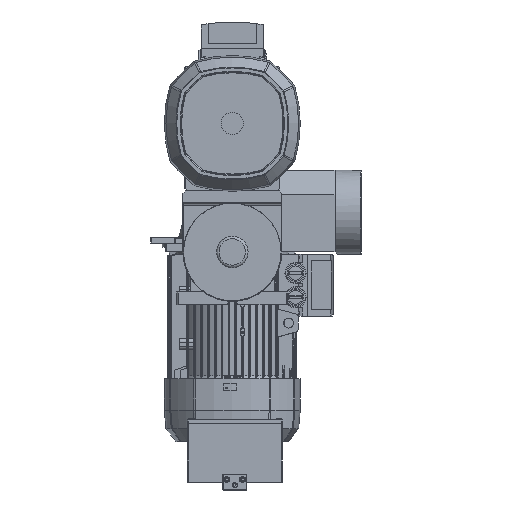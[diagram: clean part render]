
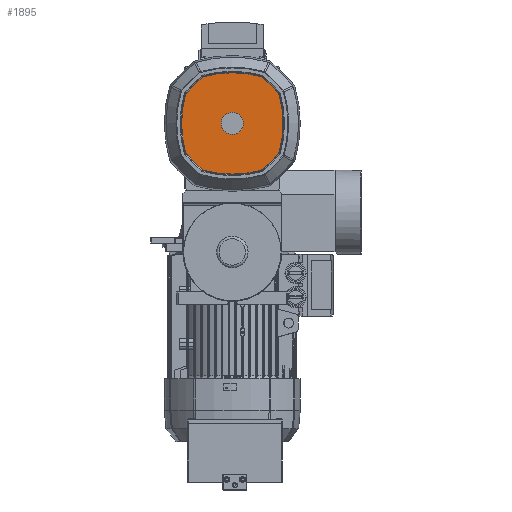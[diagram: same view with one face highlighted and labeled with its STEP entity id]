
A CAD part, front view. The second image highlights one B-rep face of the part: STEP entity #1895.
In plain terms, the highlighted planar face has unit normal (0, -1, 0) as drawn and (0, 0, -1) by its records, which use the part's own axes.
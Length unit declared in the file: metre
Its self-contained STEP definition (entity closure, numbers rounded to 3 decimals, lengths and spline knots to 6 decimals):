
#1895 = ADVANCED_FACE( '', ( #3817, #3818 ), #3819, .T. );
#3817 = FACE_BOUND( '', #8169, .T. );
#3818 = FACE_OUTER_BOUND( '', #8170, .T. );
#3819 = PLANE( '', #8171 );
#8169 = EDGE_LOOP( '', ( #14601 ) );
#8170 = EDGE_LOOP( '', ( #14602, #14603, #14604, #14605, #14606, #14607, #14608, #14609, #14610, #14611, #14612, #14613, #14614, #14615, #14616, #14617 ) );
#8171 = AXIS2_PLACEMENT_3D( '', #14618, #14619, #14620 );
#14601 = ORIENTED_EDGE( '', *, *, #28106, .F. );
#14602 = ORIENTED_EDGE( '', *, *, #28109, .T. );
#14603 = ORIENTED_EDGE( '', *, *, #27992, .T. );
#14604 = ORIENTED_EDGE( '', *, *, #27994, .T. );
#14605 = ORIENTED_EDGE( '', *, *, #27932, .T. );
#14606 = ORIENTED_EDGE( '', *, *, #27985, .T. );
#14607 = ORIENTED_EDGE( '', *, *, #27987, .T. );
#14608 = ORIENTED_EDGE( '', *, *, #27949, .T. );
#14609 = ORIENTED_EDGE( '', *, *, #28069, .T. );
#14610 = ORIENTED_EDGE( '', *, *, #27977, .T. );
#14611 = ORIENTED_EDGE( '', *, *, #28078, .T. );
#14612 = ORIENTED_EDGE( '', *, *, #28080, .T. );
#14613 = ORIENTED_EDGE( '', *, *, #28074, .T. );
#14614 = ORIENTED_EDGE( '', *, *, #28068, .T. );
#14615 = ORIENTED_EDGE( '', *, *, #28071, .T. );
#14616 = ORIENTED_EDGE( '', *, *, #27983, .T. );
#14617 = ORIENTED_EDGE( '', *, *, #28112, .T. );
#14618 = CARTESIAN_POINT( '', ( 0., 0., -0.3585 ) );
#14619 = DIRECTION( '', ( 0., 0., -1. ) );
#14620 = DIRECTION( '', ( 0., -1., 0. ) );
#27932 = EDGE_CURVE( '', #32320, #32318, #32321, .T. );
#27949 = EDGE_CURVE( '', #32349, #32347, #32350, .T. );
#27977 = EDGE_CURVE( '', #32398, #32396, #32399, .T. );
#27983 = EDGE_CURVE( '', #32403, #32408, #32410, .T. );
#27985 = EDGE_CURVE( '', #32318, #32412, #32414, .T. );
#27987 = EDGE_CURVE( '', #32412, #32349, #32416, .T. );
#27992 = EDGE_CURVE( '', #32418, #32423, #32425, .T. );
#27994 = EDGE_CURVE( '', #32423, #32320, #32428, .T. );
#28068 = EDGE_CURVE( '', #32539, #32544, #32546, .T. );
#28069 = EDGE_CURVE( '', #32347, #32398, #32547, .T. );
#28071 = EDGE_CURVE( '', #32544, #32403, #32549, .T. );
#28074 = EDGE_CURVE( '', #32550, #32539, #32554, .T. );
#28078 = EDGE_CURVE( '', #32396, #32558, #32560, .T. );
#28080 = EDGE_CURVE( '', #32558, #32550, #32562, .T. );
#28106 = EDGE_CURVE( '', #32592, #32592, #32593, .T. );
#28109 = EDGE_CURVE( '', #32594, #32418, #32597, .T. );
#28112 = EDGE_CURVE( '', #32408, #32594, #32601, .T. );
#32318 = VERTEX_POINT( '', #39543 );
#32320 = VERTEX_POINT( '', #39545 );
#32321 = CIRCLE( '', #39546, 0.004172 );
#32347 = VERTEX_POINT( '', #39610 );
#32349 = VERTEX_POINT( '', #39612 );
#32350 = CIRCLE( '', #39613, 0.208172 );
#32396 = VERTEX_POINT( '', #39725 );
#32398 = VERTEX_POINT( '', #39727 );
#32399 = CIRCLE( '', #39728, 0.291172 );
#32403 = VERTEX_POINT( '', #39732 );
#32408 = VERTEX_POINT( '', #39737 );
#32410 = CIRCLE( '', #39739, 0.208172 );
#32412 = VERTEX_POINT( '', #39741 );
#32414 = CIRCLE( '', #39743, 0.291172 );
#32416 = CIRCLE( '', #39745, 0.004172 );
#32418 = VERTEX_POINT( '', #39747 );
#32423 = VERTEX_POINT( '', #39752 );
#32425 = CIRCLE( '', #39754, 0.004172 );
#32428 = CIRCLE( '', #39757, 0.208172 );
#32539 = VERTEX_POINT( '', #40012 );
#32544 = VERTEX_POINT( '', #40017 );
#32546 = CIRCLE( '', #40019, 0.291172 );
#32547 = CIRCLE( '', #40020, 0.004172 );
#32549 = CIRCLE( '', #40022, 0.004172 );
#32550 = VERTEX_POINT( '', #40023 );
#32554 = CIRCLE( '', #40027, 0.004172 );
#32558 = VERTEX_POINT( '', #40032 );
#32560 = CIRCLE( '', #40034, 0.004172 );
#32562 = CIRCLE( '', #40036, 0.208172 );
#32592 = VERTEX_POINT( '', #40133 );
#32593 = CIRCLE( '', #40134, 0.021 );
#32594 = VERTEX_POINT( '', #40135 );
#32597 = CIRCLE( '', #40138, 0.291172 );
#32601 = CIRCLE( '', #40150, 0.004172 );
#39543 = CARTESIAN_POINT( '', ( 0.087891, -0.056705, -0.3585 ) );
#39545 = CARTESIAN_POINT( '', ( 0.08875, -0.055091, -0.3585 ) );
#39546 = AXIS2_PLACEMENT_3D( '', #55978, #55979, #55980 );
#39610 = CARTESIAN_POINT( '', ( -0.055091, -0.08875, -0.3585 ) );
#39612 = CARTESIAN_POINT( '', ( 0.055091, -0.08875, -0.3585 ) );
#39613 = AXIS2_PLACEMENT_3D( '', #56002, #56003, #56004 );
#39725 = CARTESIAN_POINT( '', ( -0.087891, -0.056705, -0.3585 ) );
#39727 = CARTESIAN_POINT( '', ( -0.056705, -0.087891, -0.3585 ) );
#39728 = AXIS2_PLACEMENT_3D( '', #56038, #56039, #56040 );
#39732 = CARTESIAN_POINT( '', ( -0.055091, 0.08875, -0.3585 ) );
#39737 = CARTESIAN_POINT( '', ( 0.055091, 0.08875, -0.3585 ) );
#39739 = AXIS2_PLACEMENT_3D( '', #56056, #56057, #56058 );
#39741 = CARTESIAN_POINT( '', ( 0.056705, -0.087891, -0.3585 ) );
#39743 = AXIS2_PLACEMENT_3D( '', #56062, #56063, #56064 );
#39745 = AXIS2_PLACEMENT_3D( '', #56068, #56069, #56070 );
#39747 = CARTESIAN_POINT( '', ( 0.087891, 0.056705, -0.3585 ) );
#39752 = CARTESIAN_POINT( '', ( 0.08875, 0.055091, -0.3585 ) );
#39754 = AXIS2_PLACEMENT_3D( '', #56083, #56084, #56085 );
#39757 = AXIS2_PLACEMENT_3D( '', #56089, #56090, #56091 );
#40012 = CARTESIAN_POINT( '', ( -0.087891, 0.056705, -0.3585 ) );
#40017 = CARTESIAN_POINT( '', ( -0.056705, 0.087891, -0.3585 ) );
#40019 = AXIS2_PLACEMENT_3D( '', #56209, #56210, #56211 );
#40020 = AXIS2_PLACEMENT_3D( '', #56212, #56213, #56214 );
#40022 = AXIS2_PLACEMENT_3D( '', #56218, #56219, #56220 );
#40023 = CARTESIAN_POINT( '', ( -0.08875, 0.055091, -0.3585 ) );
#40027 = AXIS2_PLACEMENT_3D( '', #56227, #56228, #56229 );
#40032 = CARTESIAN_POINT( '', ( -0.08875, -0.055091, -0.3585 ) );
#40034 = AXIS2_PLACEMENT_3D( '', #56237, #56238, #56239 );
#40036 = AXIS2_PLACEMENT_3D( '', #56243, #56244, #56245 );
#40133 = CARTESIAN_POINT( '', ( -0.021, 0., -0.3585 ) );
#40134 = AXIS2_PLACEMENT_3D( '', #56274, #56275, #56276 );
#40135 = CARTESIAN_POINT( '', ( 0.056705, 0.087891, -0.3585 ) );
#40138 = AXIS2_PLACEMENT_3D( '', #56283, #56284, #56285 );
#40150 = AXIS2_PLACEMENT_3D( '', #56286, #56287, #56288 );
#55978 = CARTESIAN_POINT( '', ( 0.084727, -0.053987, -0.3585 ) );
#55979 = DIRECTION( '', ( 0., 0., -1. ) );
#55980 = DIRECTION( '', ( 0., -1., 0. ) );
#56002 = CARTESIAN_POINT( '', ( 0., 0.112, -0.3585 ) );
#56003 = DIRECTION( '', ( 0., 0., -1. ) );
#56004 = DIRECTION( '', ( 0., -1., 0. ) );
#56038 = CARTESIAN_POINT( '', ( 0.133, 0.133, -0.3585 ) );
#56039 = DIRECTION( '', ( 0., 0., -1. ) );
#56040 = DIRECTION( '', ( 0., -1., 0. ) );
#56056 = CARTESIAN_POINT( '', ( 0., -0.112, -0.3585 ) );
#56057 = DIRECTION( '', ( 0., 0., -1. ) );
#56058 = DIRECTION( '', ( 0., -1., 0. ) );
#56062 = CARTESIAN_POINT( '', ( -0.133, 0.133, -0.3585 ) );
#56063 = DIRECTION( '', ( 0., 0., -1. ) );
#56064 = DIRECTION( '', ( 0., -1., 0. ) );
#56068 = CARTESIAN_POINT( '', ( 0.053987, -0.084727, -0.3585 ) );
#56069 = DIRECTION( '', ( 0., 0., -1. ) );
#56070 = DIRECTION( '', ( 0., -1., 0. ) );
#56083 = CARTESIAN_POINT( '', ( 0.084727, 0.053987, -0.3585 ) );
#56084 = DIRECTION( '', ( 0., 0., -1. ) );
#56085 = DIRECTION( '', ( 0., -1., 0. ) );
#56089 = CARTESIAN_POINT( '', ( -0.112, 0., -0.3585 ) );
#56090 = DIRECTION( '', ( 0., 0., -1. ) );
#56091 = DIRECTION( '', ( 0., -1., 0. ) );
#56209 = CARTESIAN_POINT( '', ( 0.133, -0.133, -0.3585 ) );
#56210 = DIRECTION( '', ( 0., 0., -1. ) );
#56211 = DIRECTION( '', ( 0., -1., 0. ) );
#56212 = CARTESIAN_POINT( '', ( -0.053987, -0.084727, -0.3585 ) );
#56213 = DIRECTION( '', ( 0., 0., -1. ) );
#56214 = DIRECTION( '', ( 0., -1., 0. ) );
#56218 = CARTESIAN_POINT( '', ( -0.053987, 0.084727, -0.3585 ) );
#56219 = DIRECTION( '', ( 0., 0., -1. ) );
#56220 = DIRECTION( '', ( 0., -1., 0. ) );
#56227 = CARTESIAN_POINT( '', ( -0.084727, 0.053987, -0.3585 ) );
#56228 = DIRECTION( '', ( 0., 0., -1. ) );
#56229 = DIRECTION( '', ( 0., -1., 0. ) );
#56237 = CARTESIAN_POINT( '', ( -0.084727, -0.053987, -0.3585 ) );
#56238 = DIRECTION( '', ( 0., 0., -1. ) );
#56239 = DIRECTION( '', ( 0., -1., 0. ) );
#56243 = CARTESIAN_POINT( '', ( 0.112, 0., -0.3585 ) );
#56244 = DIRECTION( '', ( 0., 0., -1. ) );
#56245 = DIRECTION( '', ( 0., -1., 0. ) );
#56274 = CARTESIAN_POINT( '', ( 0., 0., -0.3585 ) );
#56275 = DIRECTION( '', ( 0., 0., -1. ) );
#56276 = DIRECTION( '', ( -1., 0., 0. ) );
#56283 = CARTESIAN_POINT( '', ( -0.133, -0.133, -0.3585 ) );
#56284 = DIRECTION( '', ( 0., 0., -1. ) );
#56285 = DIRECTION( '', ( 0., -1., 0. ) );
#56286 = CARTESIAN_POINT( '', ( 0.053987, 0.084727, -0.3585 ) );
#56287 = DIRECTION( '', ( 0., 0., -1. ) );
#56288 = DIRECTION( '', ( 0., -1., 0. ) );
